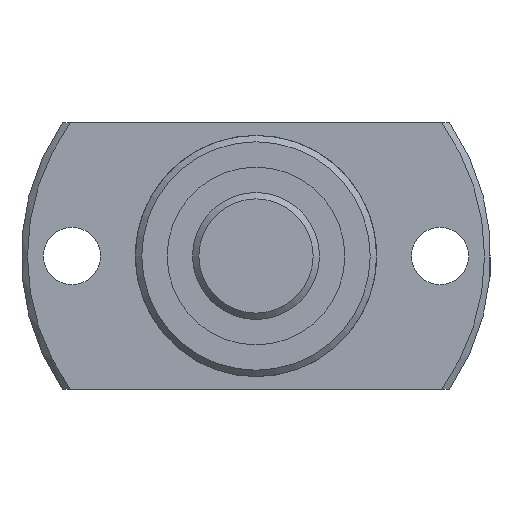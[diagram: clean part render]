
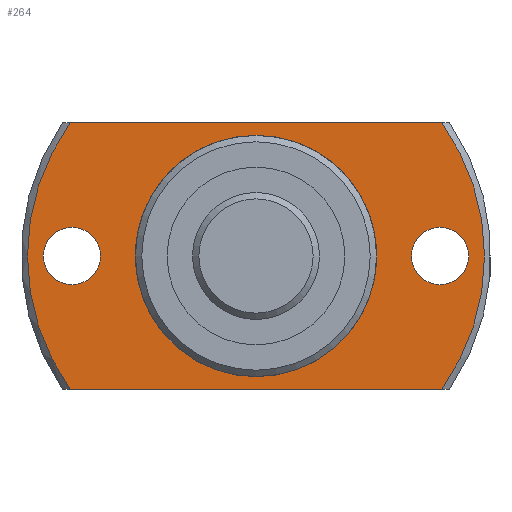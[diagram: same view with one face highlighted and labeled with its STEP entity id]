
A CAD part, left-side view. The second image highlights one B-rep face of the part: STEP entity #264.
In plain terms, the highlighted planar face has unit normal (-1, 0, 0).
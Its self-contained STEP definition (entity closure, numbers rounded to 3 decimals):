
#264 = ADVANCED_FACE( '', ( #537, #538, #539, #540 ), #541, .F. );
#537 = FACE_OUTER_BOUND( '', #807, .T. );
#538 = FACE_BOUND( '', #808, .T. );
#539 = FACE_BOUND( '', #809, .T. );
#540 = FACE_BOUND( '', #810, .T. );
#541 = PLANE( '', #811 );
#807 = EDGE_LOOP( '', ( #1358, #1359, #1360, #1361 ) );
#808 = EDGE_LOOP( '', ( #1362 ) );
#809 = EDGE_LOOP( '', ( #1363 ) );
#810 = EDGE_LOOP( '', ( #1364 ) );
#811 = AXIS2_PLACEMENT_3D( '', #1365, #1366, #1367 );
#1358 = ORIENTED_EDGE( '', *, *, #1563, .F. );
#1359 = ORIENTED_EDGE( '', *, *, #1531, .T. );
#1360 = ORIENTED_EDGE( '', *, *, #1520, .F. );
#1361 = ORIENTED_EDGE( '', *, *, #1665, .T. );
#1362 = ORIENTED_EDGE( '', *, *, #1558, .T. );
#1363 = ORIENTED_EDGE( '', *, *, #1629, .T. );
#1364 = ORIENTED_EDGE( '', *, *, #1641, .T. );
#1365 = CARTESIAN_POINT( '', ( 13., 9.25, 0. ) );
#1366 = DIRECTION( '', ( 1., 0., 0. ) );
#1367 = DIRECTION( '', ( 0., 0., -1. ) );
#1520 = EDGE_CURVE( '', #1795, #1796, #1797, .T. );
#1531 = EDGE_CURVE( '', #1815, #1796, #1816, .T. );
#1558 = EDGE_CURVE( '', #1858, #1858, #1859, .T. );
#1563 = EDGE_CURVE( '', #1815, #1866, #1867, .T. );
#1629 = EDGE_CURVE( '', #1953, #1953, #1954, .T. );
#1641 = EDGE_CURVE( '', #1972, #1972, #1973, .T. );
#1665 = EDGE_CURVE( '', #1795, #1866, #2001, .T. );
#1795 = VERTEX_POINT( '', #2179 );
#1796 = VERTEX_POINT( '', #2180 );
#1797 = CIRCLE( '', #2181, 18. );
#1815 = VERTEX_POINT( '', #2208 );
#1816 = LINE( '', #2209, #2210 );
#1858 = VERTEX_POINT( '', #2267 );
#1859 = CIRCLE( '', #2268, 2.25 );
#1866 = VERTEX_POINT( '', #2276 );
#1867 = CIRCLE( '', #2277, 18. );
#1953 = VERTEX_POINT( '', #2416 );
#1954 = CIRCLE( '', #2417, 2.25 );
#1972 = VERTEX_POINT( '', #2444 );
#1973 = CIRCLE( '', #2445, 9.25 );
#2001 = LINE( '', #2477, #2478 );
#2179 = CARTESIAN_POINT( '', ( 13., -14.62, 10.5 ) );
#2180 = CARTESIAN_POINT( '', ( 13., -14.62, -10.5 ) );
#2181 = AXIS2_PLACEMENT_3D( '', #2590, #2591, #2592 );
#2208 = CARTESIAN_POINT( '', ( 13., 14.62, -10.5 ) );
#2209 = CARTESIAN_POINT( '', ( 13., 9.25, -10.5 ) );
#2210 = VECTOR( '', #2605, 1000. );
#2267 = CARTESIAN_POINT( '', ( 13., 14.5, -2.25 ) );
#2268 = AXIS2_PLACEMENT_3D( '', #2645, #2646, #2647 );
#2276 = CARTESIAN_POINT( '', ( 13., 14.62, 10.5 ) );
#2277 = AXIS2_PLACEMENT_3D( '', #2652, #2653, #2654 );
#2416 = CARTESIAN_POINT( '', ( 13., -14.5, -2.25 ) );
#2417 = AXIS2_PLACEMENT_3D( '', #2720, #2721, #2722 );
#2444 = CARTESIAN_POINT( '', ( 13., 0., -9.25 ) );
#2445 = AXIS2_PLACEMENT_3D( '', #2735, #2736, #2737 );
#2477 = CARTESIAN_POINT( '', ( 13., 9.25, 10.5 ) );
#2478 = VECTOR( '', #2760, 1000. );
#2590 = CARTESIAN_POINT( '', ( 13., 0., 0. ) );
#2591 = DIRECTION( '', ( 1., 0., 0. ) );
#2592 = DIRECTION( '', ( 0., 0., -1. ) );
#2605 = DIRECTION( '', ( 0., -1., 0. ) );
#2645 = CARTESIAN_POINT( '', ( 13., 14.5, 0. ) );
#2646 = DIRECTION( '', ( 1., 0., 0. ) );
#2647 = DIRECTION( '', ( 0., 0., -1. ) );
#2652 = CARTESIAN_POINT( '', ( 13., 0., 0. ) );
#2653 = DIRECTION( '', ( 1., 0., 0. ) );
#2654 = DIRECTION( '', ( 0., 0., -1. ) );
#2720 = CARTESIAN_POINT( '', ( 13., -14.5, 0. ) );
#2721 = DIRECTION( '', ( 1., 0., 0. ) );
#2722 = DIRECTION( '', ( 0., 0., -1. ) );
#2735 = CARTESIAN_POINT( '', ( 13., 0., 0. ) );
#2736 = DIRECTION( '', ( 1., 0., 0. ) );
#2737 = DIRECTION( '', ( 0., 0., -1. ) );
#2760 = DIRECTION( '', ( 0., 1., 0. ) );
